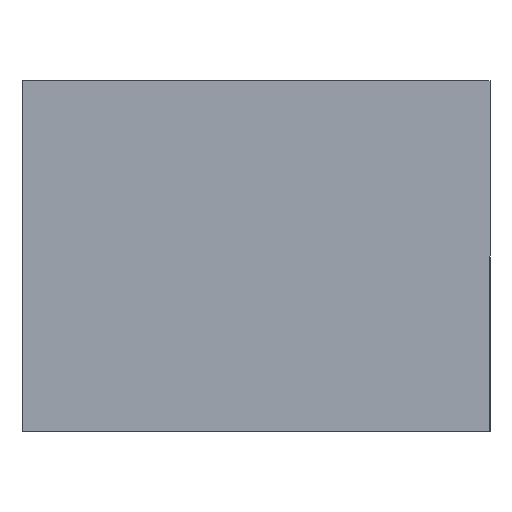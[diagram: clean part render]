
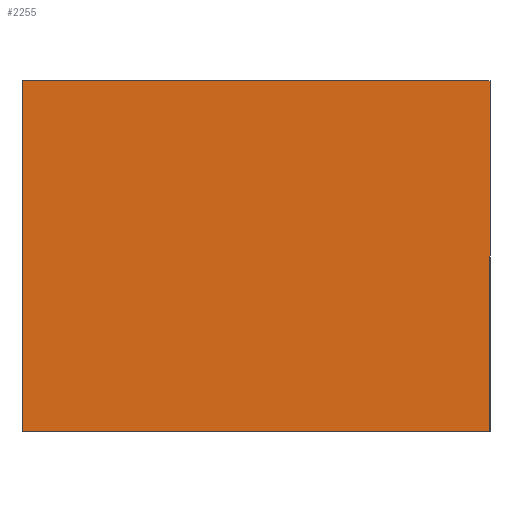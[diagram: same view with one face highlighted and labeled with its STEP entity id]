
A CAD part, front view. The second image highlights one B-rep face of the part: STEP entity #2255.
In plain terms, the highlighted planar face has unit normal (0, -1, 0).
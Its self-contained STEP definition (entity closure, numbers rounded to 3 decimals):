
#195 = VECTOR ( 'NONE', #723, 1000. ) ;
#401 = DIRECTION ( 'NONE',  ( 0., 1., 0. ) ) ;
#414 = DIRECTION ( 'NONE',  ( 1., 0., 0. ) ) ;
#415 = DIRECTION ( 'NONE',  ( 0., 0., 1. ) ) ;
#519 = VECTOR ( 'NONE', #2054, 1000. ) ;
#542 = CARTESIAN_POINT ( 'NONE',  ( 100., 0., -75. ) ) ;
#584 = LINE ( 'NONE', #1020, #195 ) ;
#723 = DIRECTION ( 'NONE',  ( 0., 0., 1. ) ) ;
#783 = EDGE_CURVE ( 'NONE', #1213, #1913, #584, .T. ) ;
#934 = ORIENTED_EDGE ( 'NONE', *, *, #944, .F. ) ;
#944 = EDGE_CURVE ( 'NONE', #1913, #1622, #1949, .T. ) ;
#981 = ORIENTED_EDGE ( 'NONE', *, *, #1931, .F. ) ;
#1008 = ORIENTED_EDGE ( 'NONE', *, *, #783, .F. ) ;
#1020 = CARTESIAN_POINT ( 'NONE',  ( -100., 0., -75. ) ) ;
#1064 = EDGE_CURVE ( 'NONE', #1622, #1274, #2368, .T. ) ;
#1213 = VERTEX_POINT ( 'NONE', #1780 ) ;
#1226 = VECTOR ( 'NONE', #1903, 1000. ) ;
#1274 = VERTEX_POINT ( 'NONE', #2426 ) ;
#1492 = CARTESIAN_POINT ( 'NONE',  ( 100., 0., 75. ) ) ;
#1549 = LINE ( 'NONE', #2035, #519 ) ;
#1622 = VERTEX_POINT ( 'NONE', #1492 ) ;
#1641 = FACE_OUTER_BOUND ( 'NONE', #2385, .T. ) ;
#1780 = CARTESIAN_POINT ( 'NONE',  ( -100., 0., -75. ) ) ;
#1880 = VECTOR ( 'NONE', #414, 1000. ) ;
#1903 = DIRECTION ( 'NONE',  ( 0., 0., -1. ) ) ;
#1913 = VERTEX_POINT ( 'NONE', #2070 ) ;
#1931 = EDGE_CURVE ( 'NONE', #1274, #1213, #1549, .T. ) ;
#1949 = LINE ( 'NONE', #2478, #1880 ) ;
#1985 = ORIENTED_EDGE ( 'NONE', *, *, #1064, .F. ) ;
#2035 = CARTESIAN_POINT ( 'NONE',  ( -100., 0., -75. ) ) ;
#2054 = DIRECTION ( 'NONE',  ( -1., 0., 0. ) ) ;
#2070 = CARTESIAN_POINT ( 'NONE',  ( -100., 0., 75. ) ) ;
#2098 = AXIS2_PLACEMENT_3D ( 'NONE', #2358, #401, #415 ) ;
#2255 = ADVANCED_FACE ( 'NONE', ( #1641 ), #2411, .F. ) ;
#2358 = CARTESIAN_POINT ( 'NONE',  ( 0., 0., 0. ) ) ;
#2368 = LINE ( 'NONE', #542, #1226 ) ;
#2385 = EDGE_LOOP ( 'NONE', ( #1985, #934, #1008, #981 ) ) ;
#2411 = PLANE ( 'NONE',  #2098 ) ;
#2426 = CARTESIAN_POINT ( 'NONE',  ( 100., 0., -75. ) ) ;
#2478 = CARTESIAN_POINT ( 'NONE',  ( -100., 0., 75. ) ) ;
